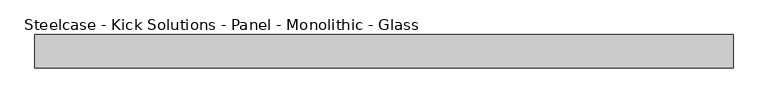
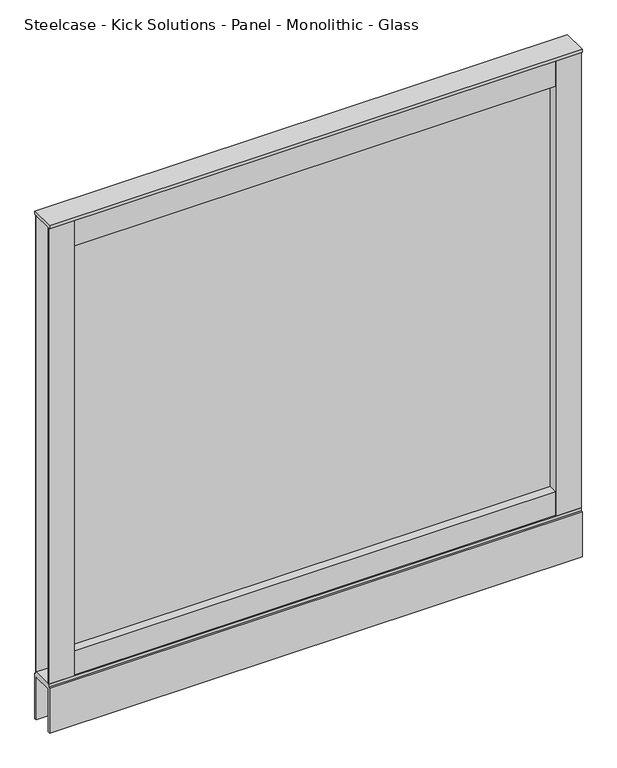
"""IFC4 building model written with IfcOpenShell, lengths in millimetres: furniture geometry, Steelcase - Kick Solutions - Panel - Monolithic - Glass : 42H x 42W."""

from ifc_helpers import new_model, si_unit, frame, origin, place, context, project, spatial, polyline, outline, extrude, source, transform, mapped, element, save


def steelcase_kick_solutions_panel_monolithic_glass_2014721f(model_context):
    return source(origin(), model_context, "Body", "SweptSolid", [
        extrude(outline(polyline([(1016.0006661, -5.08), (1016.0006661, -45.7200015), (50.8006646, -45.7200015), (50.8006646, -5.08), (1016.0006661, -5.08)])), frame((0.0, 0.0, 101.7169049), z_axis=(0.0, 0.0, 1.0), x_axis=(1.0, 0.0, 0.0)), (0.0, 0.0, 1.0), 50.6830951),
        extrude(outline(polyline([(1016.0006661, -5.08), (1016.0006661, -45.7200015), (50.8006646, -45.7200015), (50.8006646, -5.08), (1016.0006661, -5.08)])), frame((0.0, 0.0, 1009.65), z_axis=(0.0, 0.0, 1.0), x_axis=(1.0, 0.0, 0.0)), (0.0, 0.0, 1.0), 57.15),
        extrude(outline(polyline([(50.8006646, -3.1743148), (50.8006646, -47.6243142), (0.0, -47.6243142), (0.0, -45.7200015), (47.7526646, -45.7200015), (47.7526646, -5.08), (0.0, -5.08), (0.0, -3.1743148), (50.8006646, -3.1743148)])), frame((0.0, 0.0, 101.7169049), z_axis=(0.0, 0.0, 1.0), x_axis=(1.0, 0.0, 0.0)), (0.0, 0.0, 1.0), 965.0830951),
        extrude(outline(polyline([(1016.0006661, -3.1743148), (1066.8, -3.1743148), (1066.8, -5.08), (1019.0486661, -5.08), (1019.0486661, -45.7200015), (1066.8, -45.7200015), (1066.8, -47.6243142), (1016.0006661, -47.6243142), (1016.0006661, -3.1743148)])), frame((0.0, 0.0, 101.7169049), z_axis=(0.0, 0.0, 1.0), x_axis=(1.0, 0.0, 0.0)), (0.0, 0.0, 1.0), 965.0830951),
        extrude(outline(polyline([(1016.0006661, -28.422537), (50.8006646, -28.422537), (50.8006646, -25.4), (1016.0006661, -25.4), (1016.0006661, -28.422537)])), frame((0.0, 0.0, 152.4), z_axis=(0.0, 0.0, 1.0), x_axis=(1.0, 0.0, 0.0)), (0.0, 0.0, 1.0), 857.25),
        extrude(outline(polyline([(1066.8, 0.0), (1066.8, -50.8000015), (0.0, -50.8000015), (0.0, 0.0), (1066.8, 0.0)])), frame((0.0, 0.0, 1066.8), z_axis=(0.0, 0.0, 1.0), x_axis=(1.0, 0.0, 0.0)), (0.0, 0.0, 1.0), 6.35),
        extrude(outline(polyline([(0.0, 0.0), (-5.08, 0.0), (-5.08, 90.2869018), (-45.7200015, 90.2869018), (-45.7200015, 0.0), (-50.8000015, 0.0), (-50.8000015, 95.3669018), (-47.6243142, 95.3669018), (-47.6243142, 101.7169049), (-3.1743148, 101.7169049), (-3.1743148, 95.3669018), (0.0, 95.3669018), (0.0, 0.0)])), frame((0.0, 0.0, 0.0), z_axis=(1.0, 0.0, 0.0), x_axis=(0.0, 1.0, 0.0)), (0.0, 0.0, 1.0), 1066.8),
    ])


if __name__ == "__main__":
    model = new_model("IFC4")
    model_context = context("Model", 3, world=origin())
    ifc_project = project(units=[si_unit("LENGTHUNIT", "METRE", prefix="MILLI")], contexts=[model_context])
    site = spatial("IfcSite", under=ifc_project)
    building = spatial("IfcBuilding", under=site)
    placement = place(None, origin())
    steelcase_kick_solutions_panel_monolithic_glass_shape = steelcase_kick_solutions_panel_monolithic_glass_2014721f(model_context)
    element("IfcFurniture", 1, ObjectType="Steelcase - Kick Solutions - Panel - Monolithic - Glass : 42H x 42W", at=placement, inside=building, context=model_context, shape_type="MappedRepresentation", body=[
        mapped(steelcase_kick_solutions_panel_monolithic_glass_shape, transform((0.0, 0.0, 0.0), x_axis=(1.0, 0.0, 0.0), y_axis=(0.0, 1.0, 0.0), z_axis=(0.0, 0.0, 1.0))),
    ])
    save(model, "model.ifc")
